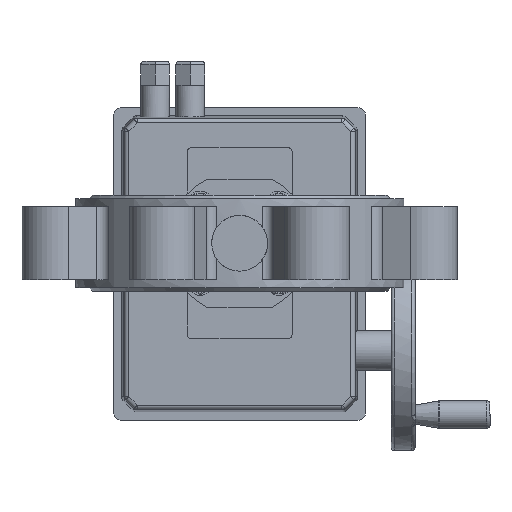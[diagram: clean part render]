
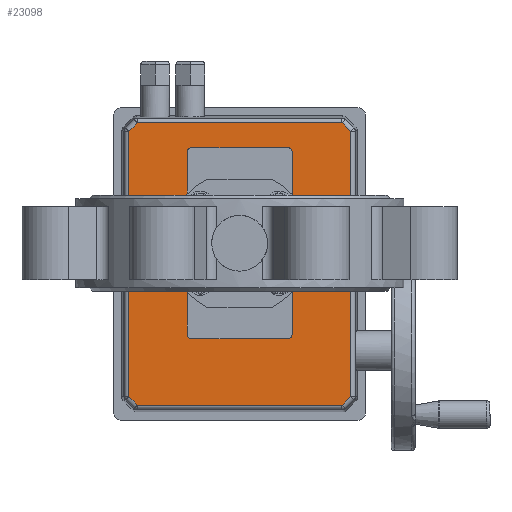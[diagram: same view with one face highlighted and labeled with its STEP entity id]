
A CAD part, front view. The second image highlights one B-rep face of the part: STEP entity #23098.
In plain terms, the highlighted planar face has unit normal (0, -1, 0).
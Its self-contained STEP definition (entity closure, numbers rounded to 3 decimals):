
#65 = CARTESIAN_POINT ( 'NONE',  ( 82.84, -45., 82.84 ) ) ;
#330 = EDGE_CURVE ( 'NONE', #1970, #17454, #13981, .T. ) ;
#558 = LINE ( 'NONE', #22837, #24975 ) ;
#786 = DIRECTION ( 'NONE',  ( 0., 0., 1. ) ) ;
#995 = VECTOR ( 'NONE', #6436, 1000. ) ;
#1120 = DIRECTION ( 'NONE',  ( 0., 0., 1. ) ) ;
#1366 = DIRECTION ( 'NONE',  ( 0., 0., -1. ) ) ;
#1771 = VECTOR ( 'NONE', #5465, 1000. ) ;
#1970 = VERTEX_POINT ( 'NONE', #14617 ) ;
#2288 = LINE ( 'NONE', #11144, #6706 ) ;
#2322 = VECTOR ( 'NONE', #1120, 1000. ) ;
#2668 = VERTEX_POINT ( 'NONE', #14540 ) ;
#2856 = ORIENTED_EDGE ( 'NONE', *, *, #3423, .T. ) ;
#2913 = VERTEX_POINT ( 'NONE', #21503 ) ;
#3139 = EDGE_CURVE ( 'NONE', #9816, #8580, #14147, .T. ) ;
#3238 = AXIS2_PLACEMENT_3D ( 'NONE', #27509, #7545, #16609 ) ;
#3404 = CARTESIAN_POINT ( 'NONE',  ( 0., -45., 33. ) ) ;
#3423 = EDGE_CURVE ( 'NONE', #10004, #2668, #22682, .T. ) ;
#3435 = ORIENTED_EDGE ( 'NONE', *, *, #7552, .T. ) ;
#3498 = VECTOR ( 'NONE', #6952, 1000. ) ;
#3810 = LINE ( 'NONE', #15420, #19667 ) ;
#4239 = VERTEX_POINT ( 'NONE', #6008 ) ;
#4784 = CARTESIAN_POINT ( 'NONE',  ( 101.531, -45., -64.149 ) ) ;
#5051 = AXIS2_PLACEMENT_3D ( 'NONE', #18816, #16774, #12259 ) ;
#5153 = AXIS2_PLACEMENT_3D ( 'NONE', #18422, #20753, #786 ) ;
#5166 = DIRECTION ( 'NONE',  ( 0., 1., 0. ) ) ;
#5420 = DIRECTION ( 'NONE',  ( 1., 0., 0. ) ) ;
#5465 = DIRECTION ( 'NONE',  ( 0., 0., -1. ) ) ;
#5543 = VECTOR ( 'NONE', #13542, 1000. ) ;
#5946 = CIRCLE ( 'NONE', #5051, 3. ) ;
#6008 = CARTESIAN_POINT ( 'NONE',  ( -70.149, -45., 69.531 ) ) ;
#6377 = EDGE_CURVE ( 'NONE', #20279, #22078, #5946, .T. ) ;
#6436 = DIRECTION ( 'NONE',  ( -0.707, 0., -0.707 ) ) ;
#6513 = CIRCLE ( 'NONE', #5153, 3. ) ;
#6706 = VECTOR ( 'NONE', #20044, 1000. ) ;
#6823 = ORIENTED_EDGE ( 'NONE', *, *, #21061, .F. ) ;
#6952 = DIRECTION ( 'NONE',  ( 1., 0., 0. ) ) ;
#7133 = CARTESIAN_POINT ( 'NONE',  ( -57., -45., 33. ) ) ;
#7207 = LINE ( 'NONE', #20778, #1771 ) ;
#7308 = LINE ( 'NONE', #3404, #13267 ) ;
#7451 = CARTESIAN_POINT ( 'NONE',  ( -75.531, -45., 64.149 ) ) ;
#7469 = EDGE_CURVE ( 'NONE', #22163, #24581, #6513, .T. ) ;
#7545 = DIRECTION ( 'NONE',  ( 0., 1., 0. ) ) ;
#7552 = EDGE_CURVE ( 'NONE', #2668, #9816, #15037, .T. ) ;
#7951 = EDGE_CURVE ( 'NONE', #4239, #13170, #9081, .T. ) ;
#8580 = VERTEX_POINT ( 'NONE', #23729 ) ;
#8603 = EDGE_CURVE ( 'NONE', #2913, #4239, #3810, .T. ) ;
#8668 = ORIENTED_EDGE ( 'NONE', *, *, #6377, .T. ) ;
#8680 = ORIENTED_EDGE ( 'NONE', *, *, #330, .T. ) ;
#9081 = LINE ( 'NONE', #10819, #995 ) ;
#9455 = CARTESIAN_POINT ( 'NONE',  ( 82.84, -45., -82.84 ) ) ;
#9816 = VERTEX_POINT ( 'NONE', #26153 ) ;
#10004 = VERTEX_POINT ( 'NONE', #15205 ) ;
#10107 = EDGE_CURVE ( 'NONE', #24410, #2913, #11284, .T. ) ;
#10819 = CARTESIAN_POINT ( 'NONE',  ( -76.38, -45., 63.301 ) ) ;
#11144 = CARTESIAN_POINT ( 'NONE',  ( 0., -45., -33. ) ) ;
#11194 = VECTOR ( 'NONE', #1366, 1000. ) ;
#11284 = LINE ( 'NONE', #65, #28188 ) ;
#11798 = DIRECTION ( 'NONE',  ( 0., 1., 0. ) ) ;
#12259 = DIRECTION ( 'NONE',  ( 0., 0., 1. ) ) ;
#12907 = ORIENTED_EDGE ( 'NONE', *, *, #21195, .T. ) ;
#13170 = VERTEX_POINT ( 'NONE', #7451 ) ;
#13267 = VECTOR ( 'NONE', #5420, 1000. ) ;
#13542 = DIRECTION ( 'NONE',  ( 0.707, 0., 0.707 ) ) ;
#13612 = ORIENTED_EDGE ( 'NONE', *, *, #3139, .T. ) ;
#13667 = AXIS2_PLACEMENT_3D ( 'NONE', #26999, #5166, #24817 ) ;
#13772 = ORIENTED_EDGE ( 'NONE', *, *, #23501, .T. ) ;
#13822 = CARTESIAN_POINT ( 'NONE',  ( 57., -45., 30. ) ) ;
#13981 = LINE ( 'NONE', #9455, #5543 ) ;
#14147 = CIRCLE ( 'NONE', #13667, 3. ) ;
#14540 = CARTESIAN_POINT ( 'NONE',  ( 60., -45., 30. ) ) ;
#14617 = CARTESIAN_POINT ( 'NONE',  ( 96.149, -45., -69.531 ) ) ;
#14845 = CARTESIAN_POINT ( 'NONE',  ( -60., -45., 30. ) ) ;
#14994 = DIRECTION ( 'NONE',  ( -1., 0., 0. ) ) ;
#15037 = LINE ( 'NONE', #28156, #11194 ) ;
#15161 = DIRECTION ( 'NONE',  ( 0.707, 0., -0.707 ) ) ;
#15205 = CARTESIAN_POINT ( 'NONE',  ( 57., -45., 33. ) ) ;
#15420 = CARTESIAN_POINT ( 'NONE',  ( -71.349, -45., 69.531 ) ) ;
#15500 = DIRECTION ( 'NONE',  ( -0.707, 0., 0.707 ) ) ;
#15689 = AXIS2_PLACEMENT_3D ( 'NONE', #13822, #11798, #18793 ) ;
#16042 = CARTESIAN_POINT ( 'NONE',  ( -57., -45., -33. ) ) ;
#16209 = LINE ( 'NONE', #25072, #18948 ) ;
#16424 = CARTESIAN_POINT ( 'NONE',  ( 101.531, -45., 0. ) ) ;
#16609 = DIRECTION ( 'NONE',  ( 0., 0., 1. ) ) ;
#16774 = DIRECTION ( 'NONE',  ( 0., 1., 0. ) ) ;
#17029 = ORIENTED_EDGE ( 'NONE', *, *, #28803, .T. ) ;
#17270 = CARTESIAN_POINT ( 'NONE',  ( -60., -45., -30. ) ) ;
#17454 = VERTEX_POINT ( 'NONE', #4784 ) ;
#18422 = CARTESIAN_POINT ( 'NONE',  ( -57., -45., -30. ) ) ;
#18601 = LINE ( 'NONE', #16424, #2322 ) ;
#18784 = PLANE ( 'NONE',  #3238 ) ;
#18793 = DIRECTION ( 'NONE',  ( 0., 0., 1. ) ) ;
#18816 = CARTESIAN_POINT ( 'NONE',  ( -57., -45., 30. ) ) ;
#18921 = ORIENTED_EDGE ( 'NONE', *, *, #10107, .T. ) ;
#18948 = VECTOR ( 'NONE', #20740, 1000. ) ;
#19436 = ORIENTED_EDGE ( 'NONE', *, *, #8603, .T. ) ;
#19667 = VECTOR ( 'NONE', #14994, 1000. ) ;
#19807 = LINE ( 'NONE', #20384, #3498 ) ;
#20044 = DIRECTION ( 'NONE',  ( 1., 0., 0. ) ) ;
#20279 = VERTEX_POINT ( 'NONE', #14845 ) ;
#20384 = CARTESIAN_POINT ( 'NONE',  ( 0., -45., -69.531 ) ) ;
#20740 = DIRECTION ( 'NONE',  ( 0., 0., -1. ) ) ;
#20753 = DIRECTION ( 'NONE',  ( 0., 1., 0. ) ) ;
#20778 = CARTESIAN_POINT ( 'NONE',  ( -75.531, -45., -65.349 ) ) ;
#21061 = EDGE_CURVE ( 'NONE', #20279, #24581, #16209, .T. ) ;
#21195 = EDGE_CURVE ( 'NONE', #24635, #22383, #558, .T. ) ;
#21503 = CARTESIAN_POINT ( 'NONE',  ( 96.149, -45., 69.531 ) ) ;
#21637 = EDGE_CURVE ( 'NONE', #13170, #24635, #7207, .T. ) ;
#21851 = CARTESIAN_POINT ( 'NONE',  ( 101.531, -45., 64.149 ) ) ;
#21853 = EDGE_LOOP ( 'NONE', ( #6823, #8668, #28518, #2856, #3435, #13612, #24193, #23009 ) ) ;
#22078 = VERTEX_POINT ( 'NONE', #7133 ) ;
#22163 = VERTEX_POINT ( 'NONE', #16042 ) ;
#22383 = VERTEX_POINT ( 'NONE', #28322 ) ;
#22682 = CIRCLE ( 'NONE', #15689, 3. ) ;
#22712 = FACE_OUTER_BOUND ( 'NONE', #26901, .T. ) ;
#22837 = CARTESIAN_POINT ( 'NONE',  ( -69.84, -45., -69.84 ) ) ;
#23009 = ORIENTED_EDGE ( 'NONE', *, *, #7469, .T. ) ;
#23098 = ADVANCED_FACE ( 'NONE', ( #22712, #25747 ), #18784, .F. ) ;
#23501 = EDGE_CURVE ( 'NONE', #17454, #24410, #18601, .T. ) ;
#23729 = CARTESIAN_POINT ( 'NONE',  ( 57., -45., -33. ) ) ;
#23818 = CARTESIAN_POINT ( 'NONE',  ( -75.531, -45., -64.149 ) ) ;
#24193 = ORIENTED_EDGE ( 'NONE', *, *, #24833, .F. ) ;
#24410 = VERTEX_POINT ( 'NONE', #21851 ) ;
#24581 = VERTEX_POINT ( 'NONE', #17270 ) ;
#24635 = VERTEX_POINT ( 'NONE', #23818 ) ;
#24817 = DIRECTION ( 'NONE',  ( 0., 0., 1. ) ) ;
#24833 = EDGE_CURVE ( 'NONE', #22163, #8580, #2288, .T. ) ;
#24975 = VECTOR ( 'NONE', #15161, 1000. ) ;
#25072 = CARTESIAN_POINT ( 'NONE',  ( -60., -45., 0. ) ) ;
#25171 = ORIENTED_EDGE ( 'NONE', *, *, #21637, .T. ) ;
#25747 = FACE_BOUND ( 'NONE', #21853, .T. ) ;
#26080 = EDGE_CURVE ( 'NONE', #22078, #10004, #7308, .T. ) ;
#26153 = CARTESIAN_POINT ( 'NONE',  ( 60., -45., -30. ) ) ;
#26901 = EDGE_LOOP ( 'NONE', ( #25171, #12907, #17029, #8680, #13772, #18921, #19436, #27301 ) ) ;
#26999 = CARTESIAN_POINT ( 'NONE',  ( 57., -45., -30. ) ) ;
#27301 = ORIENTED_EDGE ( 'NONE', *, *, #7951, .T. ) ;
#27509 = CARTESIAN_POINT ( 'NONE',  ( 0., -45., 0. ) ) ;
#28156 = CARTESIAN_POINT ( 'NONE',  ( 60., -45., 0. ) ) ;
#28188 = VECTOR ( 'NONE', #15500, 1000. ) ;
#28322 = CARTESIAN_POINT ( 'NONE',  ( -70.149, -45., -69.531 ) ) ;
#28518 = ORIENTED_EDGE ( 'NONE', *, *, #26080, .T. ) ;
#28803 = EDGE_CURVE ( 'NONE', #22383, #1970, #19807, .T. ) ;
